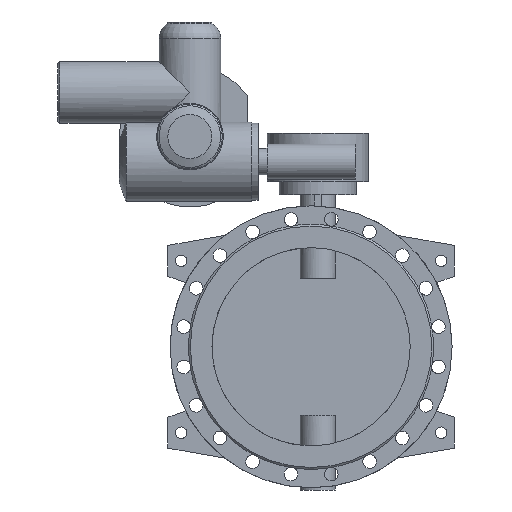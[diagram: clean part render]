
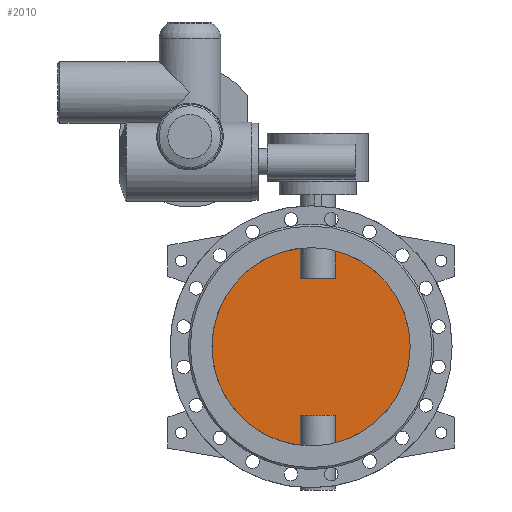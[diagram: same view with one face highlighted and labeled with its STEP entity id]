
A CAD part, front view. The second image highlights one B-rep face of the part: STEP entity #2010.
In plain terms, the highlighted planar face has unit normal (0, -1, 0).
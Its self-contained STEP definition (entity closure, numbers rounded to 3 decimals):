
#2010=ADVANCED_FACE('',(#3949),#3951,.F.);
#3949=FACE_BOUND('',#3950,.T.);
#3950=EDGE_LOOP('',(#5119,#5120,#5121,#5122,#5123,#5124,#5125,#5126));
#3951=PLANE('',#3952);
#3952=AXIS2_PLACEMENT_3D('',#3953,#3954,#3955);
#3953=CARTESIAN_POINT('',(0.,-5.,0.));
#3954=DIRECTION('',(0.,1.,0.));
#3955=DIRECTION('',(1.,0.,0.));
#5119=ORIENTED_EDGE('',*,*,#5705,.T.);
#5120=ORIENTED_EDGE('',*,*,#5710,.T.);
#5121=ORIENTED_EDGE('',*,*,#5711,.T.);
#5122=ORIENTED_EDGE('',*,*,#5712,.T.);
#5123=ORIENTED_EDGE('',*,*,#5707,.T.);
#5124=ORIENTED_EDGE('',*,*,#5713,.T.);
#5125=ORIENTED_EDGE('',*,*,#5714,.T.);
#5126=ORIENTED_EDGE('',*,*,#5715,.T.);
#5705=EDGE_CURVE('',#6719,#6720,#6721,.F.);
#5707=EDGE_CURVE('',#6724,#6722,#6725,.F.);
#5710=EDGE_CURVE('',#6720,#6729,#6730,.T.);
#5711=EDGE_CURVE('',#6729,#6731,#6732,.F.);
#5712=EDGE_CURVE('',#6731,#6724,#6733,.F.);
#5713=EDGE_CURVE('',#6722,#6734,#6735,.F.);
#5714=EDGE_CURVE('',#6734,#6736,#6737,.F.);
#5715=EDGE_CURVE('',#6736,#6719,#6738,.T.);
#6719=VERTEX_POINT('',#13216);
#6720=VERTEX_POINT('',#13217);
#6721=CIRCLE('',#13218,225.);
#6722=VERTEX_POINT('',#13222);
#6724=VERTEX_POINT('',#13308);
#6725=CIRCLE('',#13309,225.);
#6729=VERTEX_POINT('',#13427);
#6730=LINE('',#13428,#13429);
#6731=VERTEX_POINT('',#13431);
#6732=LINE('',#13432,#13433);
#6733=LINE('',#13435,#13436);
#6734=VERTEX_POINT('',#13438);
#6735=LINE('',#13439,#13440);
#6736=VERTEX_POINT('',#13442);
#6737=LINE('',#13443,#13444);
#6738=LINE('',#13446,#13447);
#13216=CARTESIAN_POINT('',(54.686,-5.,-218.253));
#13217=CARTESIAN_POINT('',(54.686,-5.,218.253));
#13218=AXIS2_PLACEMENT_3D('',#13219,#13220,#13221);
#13219=CARTESIAN_POINT('',(0.,-5.,0.));
#13220=DIRECTION('',(0.,1.,0.));
#13221=DIRECTION('',(0.243,0.,0.97));
#13222=CARTESIAN_POINT('',(-24.686,-5.,-223.642));
#13308=CARTESIAN_POINT('',(-24.686,-5.,223.642));
#13309=AXIS2_PLACEMENT_3D('',#13310,#13311,#13312);
#13310=CARTESIAN_POINT('',(0.,-5.,0.));
#13311=DIRECTION('',(0.,1.,0.));
#13312=DIRECTION('',(-0.11,0.,-0.994));
#13427=CARTESIAN_POINT('',(54.686,-5.,155.));
#13428=CARTESIAN_POINT('',(54.686,-5.,218.253));
#13429=VECTOR('',#13430,1.);
#13430=DIRECTION('',(0.,0.,-1.));
#13431=CARTESIAN_POINT('',(-24.686,-5.,155.));
#13432=CARTESIAN_POINT('',(-24.686,-5.,155.));
#13433=VECTOR('',#13434,1.);
#13434=DIRECTION('',(1.,0.,0.));
#13435=CARTESIAN_POINT('',(-24.686,-5.,223.642));
#13436=VECTOR('',#13437,1.);
#13437=DIRECTION('',(0.,0.,-1.));
#13438=CARTESIAN_POINT('',(-24.686,-5.,-155.));
#13439=CARTESIAN_POINT('',(-24.686,-5.,-155.));
#13440=VECTOR('',#13441,1.);
#13441=DIRECTION('',(0.,0.,-1.));
#13442=CARTESIAN_POINT('',(54.686,-5.,-155.));
#13443=CARTESIAN_POINT('',(54.686,-5.,-155.));
#13444=VECTOR('',#13445,1.);
#13445=DIRECTION('',(-1.,0.,0.));
#13446=CARTESIAN_POINT('',(54.686,-5.,-155.));
#13447=VECTOR('',#13448,1.);
#13448=DIRECTION('',(0.,0.,-1.));
